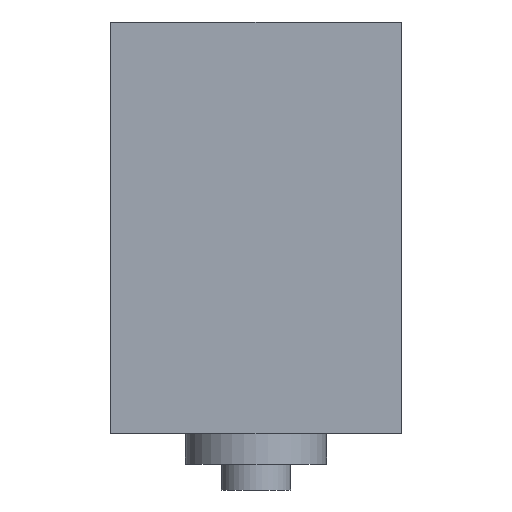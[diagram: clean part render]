
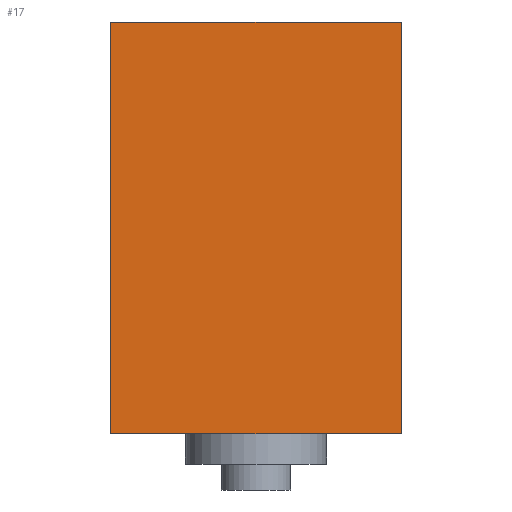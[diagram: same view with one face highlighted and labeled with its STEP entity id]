
A CAD part, left-side view. The second image highlights one B-rep face of the part: STEP entity #17.
In plain terms, the highlighted planar face has unit normal (-1, 0, 0).
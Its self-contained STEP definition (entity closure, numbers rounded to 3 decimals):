
#17 = ADVANCED_FACE('',(#18),#32,.F.);
#18 = FACE_BOUND('',#19,.F.);
#19 = EDGE_LOOP('',(#20,#55,#83,#111));
#20 = ORIENTED_EDGE('',*,*,#21,.F.);
#21 = EDGE_CURVE('',#22,#24,#26,.T.);
#22 = VERTEX_POINT('',#23);
#23 = CARTESIAN_POINT('',(-29.5,-12.35,-83.3));
#24 = VERTEX_POINT('',#25);
#25 = CARTESIAN_POINT('',(-29.5,-12.35,-48.3));
#26 = SURFACE_CURVE('',#27,(#31,#43),.PCURVE_S1.);
#27 = LINE('',#28,#29);
#28 = CARTESIAN_POINT('',(-29.5,-12.35,-83.3));
#29 = VECTOR('',#30,1.);
#30 = DIRECTION('',(0.,0.,1.));
#31 = PCURVE('',#32,#37);
#32 = PLANE('',#33);
#33 = AXIS2_PLACEMENT_3D('',#34,#35,#36);
#34 = CARTESIAN_POINT('',(-29.5,-12.35,-83.3));
#35 = DIRECTION('',(1.,0.,-0.));
#36 = DIRECTION('',(0.,0.,1.));
#37 = DEFINITIONAL_REPRESENTATION('',(#38),#42);
#38 = LINE('',#39,#40);
#39 = CARTESIAN_POINT('',(0.,0.));
#40 = VECTOR('',#41,1.);
#41 = DIRECTION('',(1.,0.));
#42 = ( GEOMETRIC_REPRESENTATION_CONTEXT(2) 
PARAMETRIC_REPRESENTATION_CONTEXT() REPRESENTATION_CONTEXT('2D SPACE',''
  ) );
#43 = PCURVE('',#44,#49);
#44 = PLANE('',#45);
#45 = AXIS2_PLACEMENT_3D('',#46,#47,#48);
#46 = CARTESIAN_POINT('',(-29.5,-12.35,-83.3));
#47 = DIRECTION('',(-0.,1.,0.));
#48 = DIRECTION('',(0.,0.,1.));
#49 = DEFINITIONAL_REPRESENTATION('',(#50),#54);
#50 = LINE('',#51,#52);
#51 = CARTESIAN_POINT('',(0.,0.));
#52 = VECTOR('',#53,1.);
#53 = DIRECTION('',(1.,0.));
#54 = ( GEOMETRIC_REPRESENTATION_CONTEXT(2) 
PARAMETRIC_REPRESENTATION_CONTEXT() REPRESENTATION_CONTEXT('2D SPACE',''
  ) );
#55 = ORIENTED_EDGE('',*,*,#56,.T.);
#56 = EDGE_CURVE('',#22,#57,#59,.T.);
#57 = VERTEX_POINT('',#58);
#58 = CARTESIAN_POINT('',(-29.5,12.35,-83.3));
#59 = SURFACE_CURVE('',#60,(#64,#71),.PCURVE_S1.);
#60 = LINE('',#61,#62);
#61 = CARTESIAN_POINT('',(-29.5,-12.35,-83.3));
#62 = VECTOR('',#63,1.);
#63 = DIRECTION('',(-0.,1.,0.));
#64 = PCURVE('',#32,#65);
#65 = DEFINITIONAL_REPRESENTATION('',(#66),#70);
#66 = LINE('',#67,#68);
#67 = CARTESIAN_POINT('',(0.,0.));
#68 = VECTOR('',#69,1.);
#69 = DIRECTION('',(0.,-1.));
#70 = ( GEOMETRIC_REPRESENTATION_CONTEXT(2) 
PARAMETRIC_REPRESENTATION_CONTEXT() REPRESENTATION_CONTEXT('2D SPACE',''
  ) );
#71 = PCURVE('',#72,#77);
#72 = PLANE('',#73);
#73 = AXIS2_PLACEMENT_3D('',#74,#75,#76);
#74 = CARTESIAN_POINT('',(-29.5,-12.35,-83.3));
#75 = DIRECTION('',(0.,0.,1.));
#76 = DIRECTION('',(1.,0.,-0.));
#77 = DEFINITIONAL_REPRESENTATION('',(#78),#82);
#78 = LINE('',#79,#80);
#79 = CARTESIAN_POINT('',(0.,0.));
#80 = VECTOR('',#81,1.);
#81 = DIRECTION('',(0.,1.));
#82 = ( GEOMETRIC_REPRESENTATION_CONTEXT(2) 
PARAMETRIC_REPRESENTATION_CONTEXT() REPRESENTATION_CONTEXT('2D SPACE',''
  ) );
#83 = ORIENTED_EDGE('',*,*,#84,.T.);
#84 = EDGE_CURVE('',#57,#85,#87,.T.);
#85 = VERTEX_POINT('',#86);
#86 = CARTESIAN_POINT('',(-29.5,12.35,-48.3));
#87 = SURFACE_CURVE('',#88,(#92,#99),.PCURVE_S1.);
#88 = LINE('',#89,#90);
#89 = CARTESIAN_POINT('',(-29.5,12.35,-83.3));
#90 = VECTOR('',#91,1.);
#91 = DIRECTION('',(0.,0.,1.));
#92 = PCURVE('',#32,#93);
#93 = DEFINITIONAL_REPRESENTATION('',(#94),#98);
#94 = LINE('',#95,#96);
#95 = CARTESIAN_POINT('',(0.,-24.7));
#96 = VECTOR('',#97,1.);
#97 = DIRECTION('',(1.,0.));
#98 = ( GEOMETRIC_REPRESENTATION_CONTEXT(2) 
PARAMETRIC_REPRESENTATION_CONTEXT() REPRESENTATION_CONTEXT('2D SPACE',''
  ) );
#99 = PCURVE('',#100,#105);
#100 = PLANE('',#101);
#101 = AXIS2_PLACEMENT_3D('',#102,#103,#104);
#102 = CARTESIAN_POINT('',(-29.5,12.35,-83.3));
#103 = DIRECTION('',(-0.,1.,0.));
#104 = DIRECTION('',(0.,0.,1.));
#105 = DEFINITIONAL_REPRESENTATION('',(#106),#110);
#106 = LINE('',#107,#108);
#107 = CARTESIAN_POINT('',(0.,0.));
#108 = VECTOR('',#109,1.);
#109 = DIRECTION('',(1.,0.));
#110 = ( GEOMETRIC_REPRESENTATION_CONTEXT(2) 
PARAMETRIC_REPRESENTATION_CONTEXT() REPRESENTATION_CONTEXT('2D SPACE',''
  ) );
#111 = ORIENTED_EDGE('',*,*,#112,.F.);
#112 = EDGE_CURVE('',#24,#85,#113,.T.);
#113 = SURFACE_CURVE('',#114,(#118,#125),.PCURVE_S1.);
#114 = LINE('',#115,#116);
#115 = CARTESIAN_POINT('',(-29.5,-12.35,-48.3));
#116 = VECTOR('',#117,1.);
#117 = DIRECTION('',(-0.,1.,0.));
#118 = PCURVE('',#32,#119);
#119 = DEFINITIONAL_REPRESENTATION('',(#120),#124);
#120 = LINE('',#121,#122);
#121 = CARTESIAN_POINT('',(35.,0.));
#122 = VECTOR('',#123,1.);
#123 = DIRECTION('',(0.,-1.));
#124 = ( GEOMETRIC_REPRESENTATION_CONTEXT(2) 
PARAMETRIC_REPRESENTATION_CONTEXT() REPRESENTATION_CONTEXT('2D SPACE',''
  ) );
#125 = PCURVE('',#126,#131);
#126 = PLANE('',#127);
#127 = AXIS2_PLACEMENT_3D('',#128,#129,#130);
#128 = CARTESIAN_POINT('',(-29.5,-12.35,-48.3));
#129 = DIRECTION('',(0.,0.,1.));
#130 = DIRECTION('',(1.,0.,-0.));
#131 = DEFINITIONAL_REPRESENTATION('',(#132),#136);
#132 = LINE('',#133,#134);
#133 = CARTESIAN_POINT('',(0.,0.));
#134 = VECTOR('',#135,1.);
#135 = DIRECTION('',(0.,1.));
#136 = ( GEOMETRIC_REPRESENTATION_CONTEXT(2) 
PARAMETRIC_REPRESENTATION_CONTEXT() REPRESENTATION_CONTEXT('2D SPACE',''
  ) );
